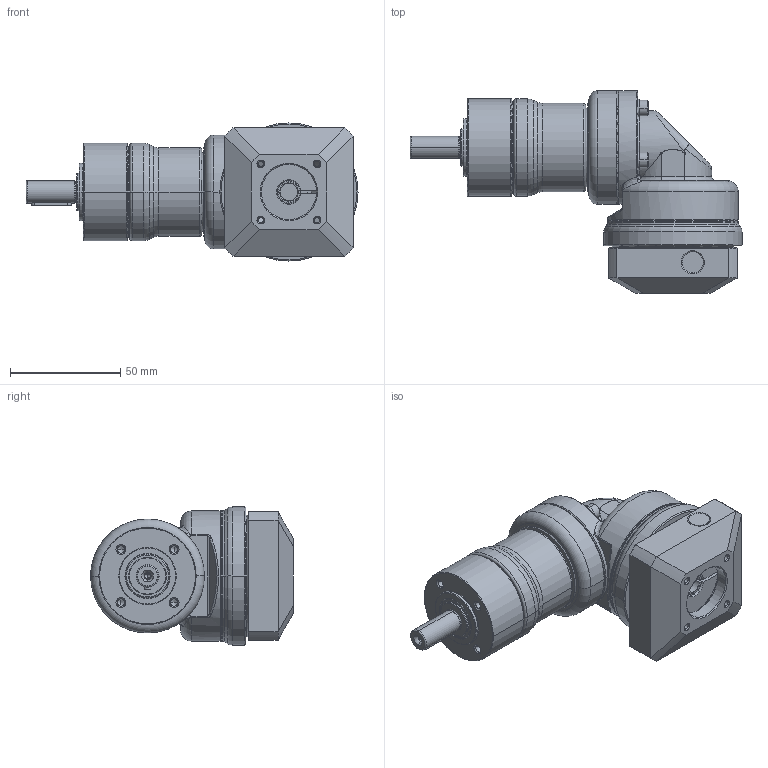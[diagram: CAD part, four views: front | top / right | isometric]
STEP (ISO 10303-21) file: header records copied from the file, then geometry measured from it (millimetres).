
FILE_DESCRIPTION((''),'2;1');
FILE_NAME('PG2R-040_2ST_8-P0411100101_ASM','2016-04-21T',('d01943'),(''),'PRO/ENGINEER BY PARAMETRIC TECHNOLOGY CORPORATION, 2008410','PRO/ENGINEER BY PARAMETRIC TECHNOLOGY CORPORATION, 2008410','');
FILE_SCHEMA(('CONFIG_CONTROL_DESIGN'));
Length unit declared in the file: millimetre
Products named in the file (12): P1325100001; P0251100001; P0350101103; P1349100001; P1017100001; P0713100001; P0503100005; P1350100001; P0411100101; P1702300001; 2111B104015; PG2R-040_2ST_8-P0411100101_ASM
Assembly tree (14 placements, depth 2):
  PG2R-040_2ST_8-P0411100101_ASM
    P1325100001
    P0251100001
    P0350101103
    P1349100001
    P1017100001
    P0713100001
    P0503100005
    P1350100001
    P0411100101
    P1702300001
    2111B104015  x4
Bounding box: 150.25 x 91.75 x 62.5 mm (x, y, z)
Volume: 189812.5 mm3; surface area: 76171.6 mm2
Topology: 14 solids, 15 shells, 736 faces, 1624 edges, 943 vertices
Faces by surface type: cylinder 224, cone 206, plane 163, torus 108, bspline 35
Entity records: 23625 total; most frequent: CARTESIAN_POINT 9299, DIRECTION 3181, ORIENTED_EDGE 2776, EDGE_CURVE 1388, AXIS2_PLACEMENT_3D 1350, VERTEX_POINT 823, CIRCLE 722, EDGE_LOOP 721
